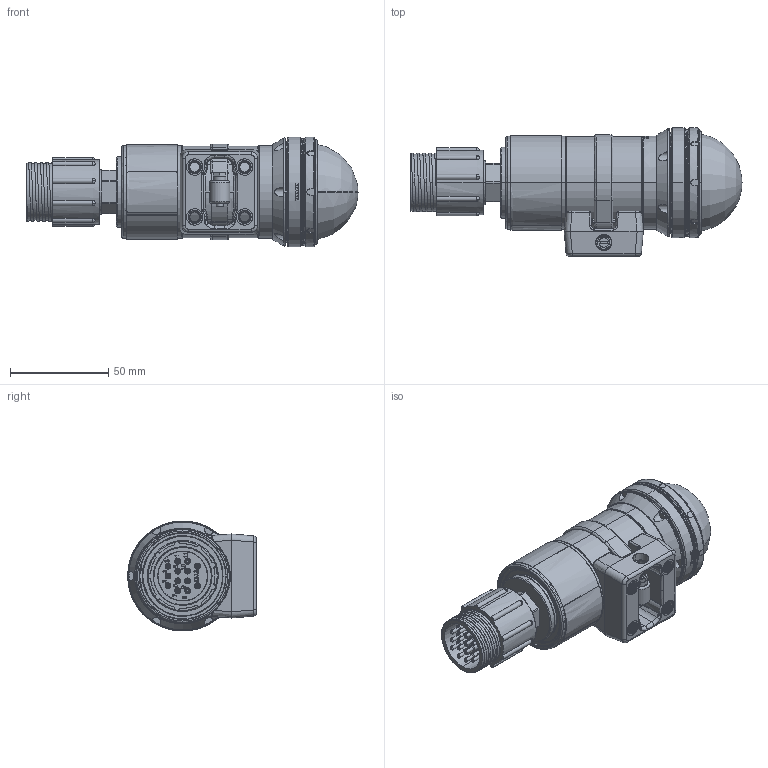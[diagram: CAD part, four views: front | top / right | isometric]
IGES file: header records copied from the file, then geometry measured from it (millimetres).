
Start section: SolidWorks IGES file using analytic representation for surfaces
Global section: file name: C:\workspace\gige-multi-seacam-assemblies\3D_Models\S11255_(MV100-D-TI-BFS-032-C-023-I-SUDBH13MS-13C007)_IGS.IGS; native system: SolidWorks 2023; preprocessor: SolidWorks 2023; author: analisa.guedea; date: 240822.085043; units: millimetre
Bounding box: 169.09 x 65.47 x 56 mm (x, y, z)
Surface area: 52944.5 mm2 (no closed solid volume)
Topology: 0 solids, 0 shells, 803 faces, 13253 edges, 13226 vertices
Faces by surface type: revolution 446, bspline 357
